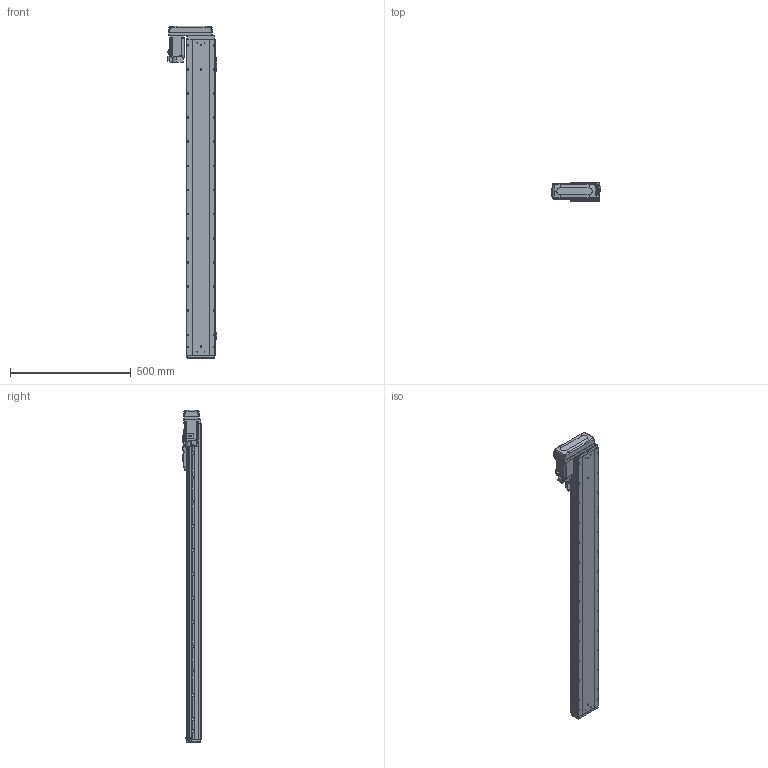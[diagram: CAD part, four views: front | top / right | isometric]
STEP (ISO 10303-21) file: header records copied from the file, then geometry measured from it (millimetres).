
FILE_DESCRIPTION (( 'STEP AP203' ), '1' );
FILE_NAME ('GTH12-1100-BR-M40-C4.step', '2023-07-05T00:05:04', ( '微软用户' ), ( '微软中国' ), 'SwSTEP 2.0', 'SolidWorks 2020', '' );
FILE_SCHEMA (( 'CONFIG_CONTROL_DESIGN' ));
Length unit declared in the file: millimetre
Products named in the file (18): GBT 70.1-M5×16; BTH-M3X5X6; GTH120-001_1100; GBT 70.3-M3℅8; hg-kn43j_-s100_; GTH120-003; GTH80-022; CTHA86-033_M40B; GTH120-006; GTH80-028; GTH120-027-1_GTH120-027-2; GTH120-004; GTH50-023; GTH12-1100-BR-M40-C4; GTH120-013; GTH50-024; GBT 70.1-M3℅6; GBT96.1-2002 3×0.8
Assembly tree (59 placements, depth 2):
  GTH12-1100-BR-M40-C4
    GTH120-001_1100
    GTH120-003
    GTH120-006
    GTH120-004
    GTH120-013
    GBT 70.1-M3℅6  x14
    GBT 70.1-M5×16  x10
    GBT 70.3-M3℅8  x4
    GTH80-022
    GTH80-028  x2
    GTH50-023  x3
    GTH50-024  x3
    GBT96.1-2002 3×0.8  x6
    BTH-M3X5X6  x8
    hg-kn43j_-s100_
    CTHA86-033_M40B
    GTH120-027-1_GTH120-027-2
Bounding box: 203.5 x 76 x 1375.5 mm (x, y, z)
Volume: 9818653.3 mm3; surface area: 829570.5 mm2
Topology: 61 solids, 61 shells, 2566 faces, 6021 edges, 3697 vertices
Faces by surface type: plane 1302, cylinder 764, cone 312, torus 174, sphere 8, bspline 6
Entity records: 49399 total; most frequent: CARTESIAN_POINT 8370, DIRECTION 8229, ORIENTED_EDGE 7652, EDGE_CURVE 3826, AXIS2_PLACEMENT_3D 2877, LINE 2475, VECTOR 2475, VERTEX_POINT 2418
